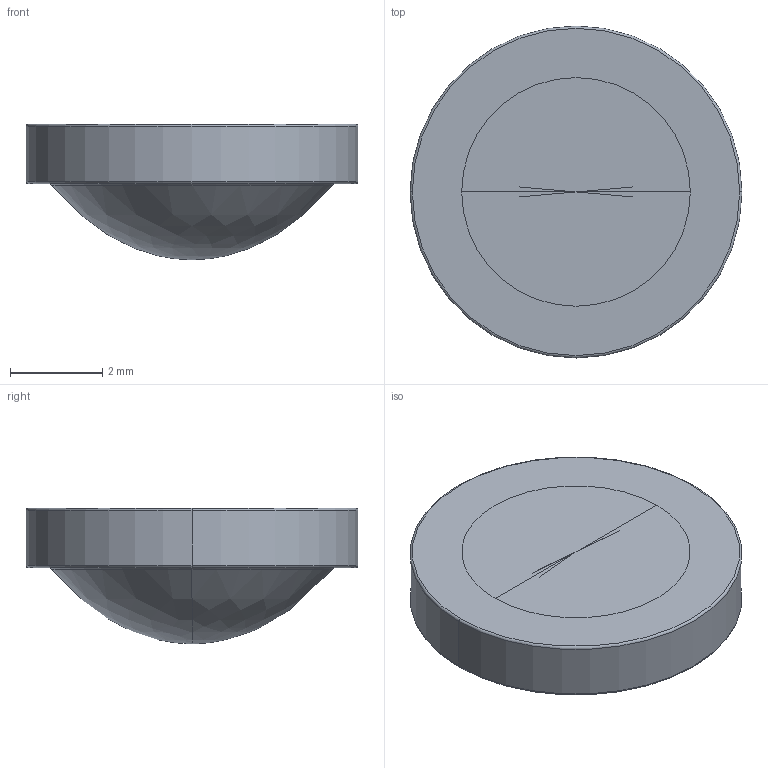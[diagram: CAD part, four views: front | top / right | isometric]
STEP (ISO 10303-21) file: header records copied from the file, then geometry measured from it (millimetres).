
FILE_DESCRIPTION((''),'2;1');
FILE_NAME('354105','2025-07-25T21:00:48',('admin'),('LIGHTPATH'),'CREO PARAMETRIC BY PTC INC, 2024063','CREO PARAMETRIC BY PTC INC, 2024063','');
FILE_SCHEMA(('CONFIG_CONTROL_DESIGN'));
Length unit declared in the file: millimetre
Products named in the file (1): 354105
Bounding box: 7.2 x 7.2 x 2.94 mm (x, y, z)
Volume: 77.8 mm3; surface area: 117.3 mm2
Topology: 1 solids, 1 shells, 14 faces, 30 edges, 16 vertices
Faces by surface type: torus 6, revolution 4, plane 2, cylinder 2
Entity records: 923 total; most frequent: CARTESIAN_POINT 587, DIRECTION 68, ORIENTED_EDGE 52, AXIS2_PLACEMENT_3D 30, EDGE_CURVE 26, CIRCLE 20, VERTEX_POINT 16, EDGE_LOOP 16
